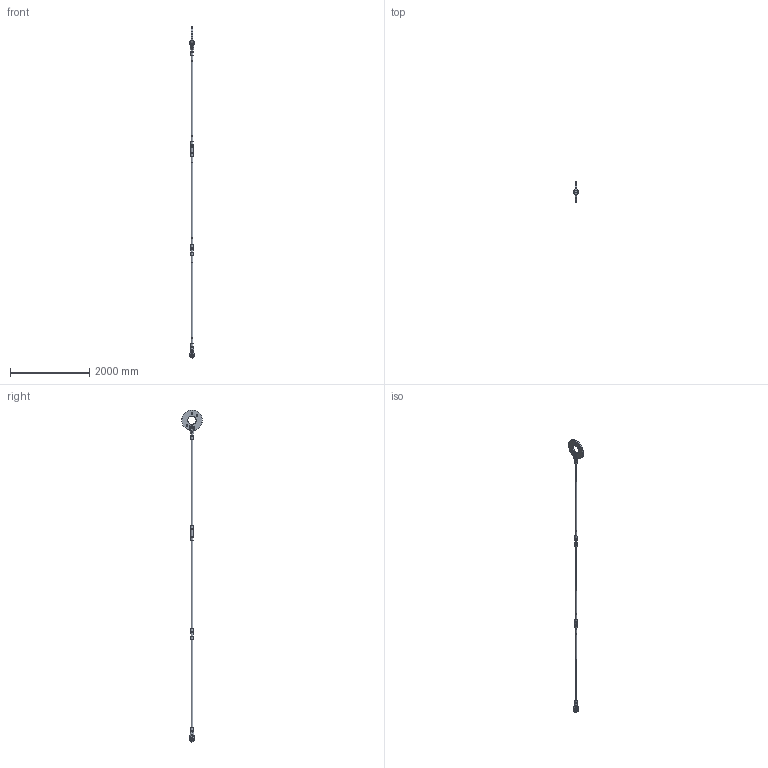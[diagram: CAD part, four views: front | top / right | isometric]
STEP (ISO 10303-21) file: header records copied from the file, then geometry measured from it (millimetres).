
FILE_DESCRIPTION(/* description */ (''),/* implementation_level */ '2;1');
FILE_NAME(/* name */ 'C:\Vault-WS\Anker\Werksnorm\Hochbau\ASDO-System\ASDO-S\System Komplett\Step\M 042.stp',/* time_stamp */ '2014-01-30T09:15:53+01:00',/* author */ ('ritgen'),/* organization */ (''),/* preprocessor_version */ 'ST-DEVELOPER v15.2',/* originating_system */ 'Autodesk Inventor 2014',/* authorisation */ '');
FILE_SCHEMA (('AUTOMOTIVE_DESIGN { 1 0 10303 214 3 1 1 }'));
Length unit declared in the file: millimetre
Products named in the file (11): ASDO-005758; ASDO-006546; ASDO-014321; DIN 7991 - M6x16 - 8.8; ASDO-013932; ASDO-001673; ASDO-001324; ASDO-001450; ASDO-013974; ASDO-014008; ASDO-013973
Bounding box: 105 x 519.51 x 8371.18 mm (x, y, z)
Volume: 19817192 mm3; surface area: 2040573 mm2
Topology: 20 solids, 20 shells, 469 faces, 1004 edges, 614 vertices
Faces by surface type: plane 160, bspline 144, cylinder 79, cone 44, torus 42
Full cylindrical faces by diameter (mm): 4.917 x2, 6 x2, 7 x20, 12 x2, 37.129 x11, 42 x5, 44 x8, 45 x1, 45.5 x6, 54 x4, 59.8 x6, 64 x2, 210 x1, 520 x1
Entity records: 14026 total; most frequent: CARTESIAN_POINT 9589, DIRECTION 808, ORIENTED_EDGE 796, EDGE_CURVE 398, AXIS2_PLACEMENT_3D 363, EDGE_LOOP 326, VERTEX_POINT 278, ADVANCED_FACE 220
